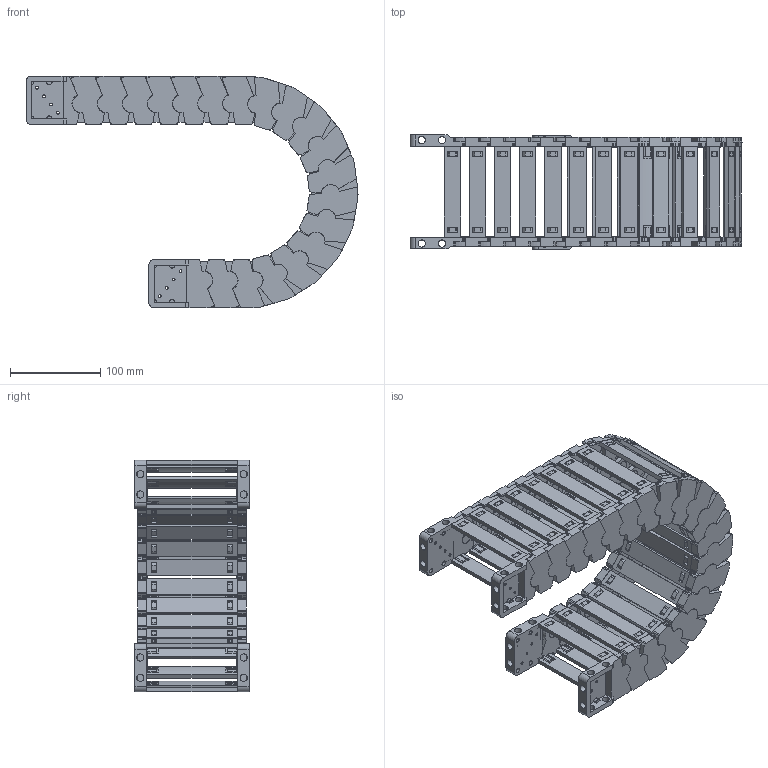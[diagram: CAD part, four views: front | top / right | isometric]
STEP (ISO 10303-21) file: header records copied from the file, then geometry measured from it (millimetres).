
FILE_DESCRIPTION((''),'2;1');
FILE_NAME('JY-42X100-R100_ASM','2022-05-06T10:56:31',('admin'),(''),'CREO PARAMETRIC BY PTC INC, 2021164','CREO PARAMETRIC BY PTC INC, 2021164','');
FILE_SCHEMA(('CONFIG_CONTROL_DESIGN','GEOMETRIC_VALIDATION_PROPERTIES_MIM'));
Length unit declared in the file: millimetre
Products named in the file (11): 42XL-L; 42-52XL-YP; 42XL-R; ASM0001_ASM; 42-LTT-A-L; 42-LTT-A-R; 42XL-LTT-A_ASM; 42-LTT-B-L; 42-LTT-B-R; 42XL-LTT-B_ASM; JY-42X100-R100_ASM
Assembly tree (33 placements, depth 3):
  JY-42X100-R100_ASM
    ASM0001_ASM  x19
      42XL-L
      42-52XL-YP
      42XL-R
    42XL-LTT-A_ASM
      42-LTT-A-L
      42-52XL-YP  x2
      42-LTT-A-R
    42XL-LTT-B_ASM
      42-LTT-B-L
      42-52XL-YP  x2
      42-LTT-B-R
Bounding box: 367.66 x 126.5 x 256.52 mm (x, y, z)
Volume: 923784 mm3; surface area: 531662 mm2
Topology: 84 solids, 84 shells, 4608 faces, 13808 edges, 9344 vertices
Faces by surface type: plane 3070, cylinder 1068, cone 380, bspline 72, torus 18
Entity records: 27251 total; most frequent: CARTESIAN_POINT 7390, ORIENTED_EDGE 4024, DIRECTION 3964, EDGE_CURVE 2012, AXIS2_PLACEMENT_3D 1432, VERTEX_POINT 1360, VECTOR 1100, LINE 1100
